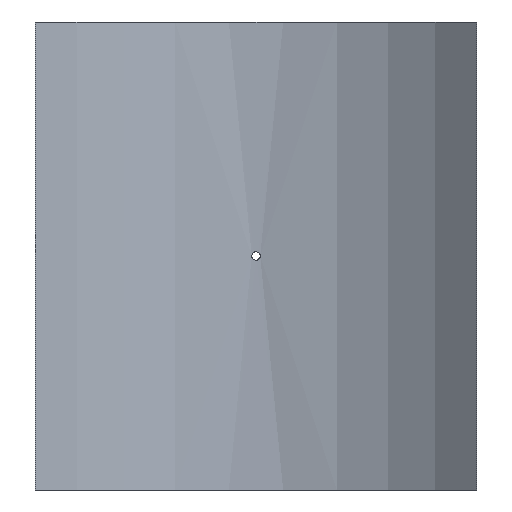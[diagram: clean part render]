
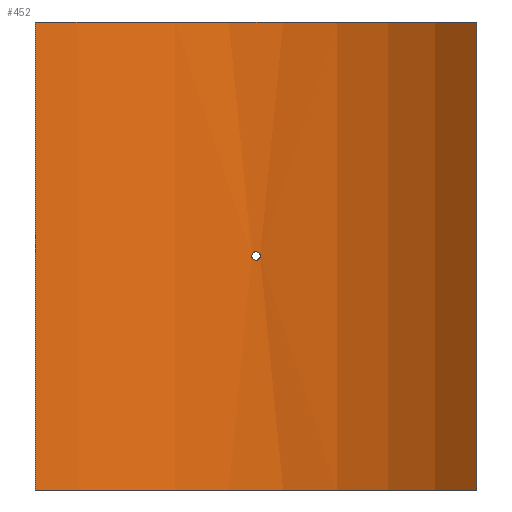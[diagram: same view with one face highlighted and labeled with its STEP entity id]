
A CAD part, front view. The second image highlights one B-rep face of the part: STEP entity #452.
In plain terms, the highlighted cylindrical face has radius 355 mm (diameter 710 mm), a partial arc.
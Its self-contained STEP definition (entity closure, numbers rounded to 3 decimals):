
#19=B_SPLINE_CURVE_WITH_KNOTS('',3,(#788,#789,#790,#791,#792,#793,#794,
#795,#796,#797,#798,#799,#800,#801,#802,#803,#804,#805,#806,#807,#808,#809,
#810,#811,#812,#813,#814,#815,#816,#817,#818,#819,#820,#821),
 .UNSPECIFIED.,.T.,.F.,(4,2,2,2,2,2,2,2,2,2,2,2,2,2,2,2,4),(0.,0.181,
0.362,0.542,0.723,0.904,
1.085,1.266,1.446,1.627,1.808,
1.989,2.17,2.351,2.531,2.712,
2.893),.UNSPECIFIED.);
#43=LINE('',#1073,#62);
#44=LINE('',#1076,#63);
#62=VECTOR('',#661,10.);
#63=VECTOR('',#664,10.);
#76=CYLINDRICAL_SURFACE('',#530,355.);
#88=FACE_BOUND('',#167,.T.);
#127=FACE_OUTER_BOUND('',#166,.T.);
#166=EDGE_LOOP('',(#405,#406,#407,#408));
#167=EDGE_LOOP('',(#409));
#201=CIRCLE('',#529,355.);
#202=CIRCLE('',#531,355.);
#219=VERTEX_POINT('',#786);
#242=VERTEX_POINT('',#1066);
#243=VERTEX_POINT('',#1068);
#244=VERTEX_POINT('',#1072);
#245=VERTEX_POINT('',#1074);
#267=EDGE_CURVE('',#219,#219,#19,.T.);
#299=EDGE_CURVE('',#242,#243,#201,.T.);
#301=EDGE_CURVE('',#244,#242,#43,.T.);
#302=EDGE_CURVE('',#245,#244,#202,.T.);
#303=EDGE_CURVE('',#245,#243,#44,.T.);
#405=ORIENTED_EDGE('',*,*,#301,.F.);
#406=ORIENTED_EDGE('',*,*,#302,.F.);
#407=ORIENTED_EDGE('',*,*,#303,.T.);
#408=ORIENTED_EDGE('',*,*,#299,.F.);
#409=ORIENTED_EDGE('',*,*,#267,.T.);
#452=ADVANCED_FACE('',(#127,#88),#76,.F.);
#529=AXIS2_PLACEMENT_3D('',#1069,#656,#657);
#530=AXIS2_PLACEMENT_3D('',#1071,#659,#660);
#531=AXIS2_PLACEMENT_3D('',#1075,#662,#663);
#656=DIRECTION('center_axis',(0.,0.,1.));
#657=DIRECTION('ref_axis',(0.704,0.71,0.));
#659=DIRECTION('center_axis',(0.,0.,1.));
#660=DIRECTION('ref_axis',(0.704,0.71,0.));
#661=DIRECTION('',(0.,0.,-1.));
#662=DIRECTION('center_axis',(0.,0.,-1.));
#663=DIRECTION('ref_axis',(0.704,0.71,0.));
#664=DIRECTION('',(0.,0.,-1.));
#786=CARTESIAN_POINT('',(4.8,354.968,0.));
#788=CARTESIAN_POINT('Ctrl Pts',(4.8,354.968,0.));
#789=CARTESIAN_POINT('Ctrl Pts',(4.8,354.968,-0.603));
#790=CARTESIAN_POINT('Ctrl Pts',(4.68,354.969,-1.246));
#791=CARTESIAN_POINT('Ctrl Pts',(4.19,354.975,-2.428));
#792=CARTESIAN_POINT('Ctrl Pts',(3.82,354.98,-2.968));
#793=CARTESIAN_POINT('Ctrl Pts',(2.968,354.988,-3.82));
#794=CARTESIAN_POINT('Ctrl Pts',(2.428,354.992,-4.19));
#795=CARTESIAN_POINT('Ctrl Pts',(1.246,354.998,-4.68));
#796=CARTESIAN_POINT('Ctrl Pts',(0.603,355.,-4.8));
#797=CARTESIAN_POINT('Ctrl Pts',(-0.603,355.,-4.8));
#798=CARTESIAN_POINT('Ctrl Pts',(-1.246,354.998,-4.68));
#799=CARTESIAN_POINT('Ctrl Pts',(-2.428,354.992,-4.19));
#800=CARTESIAN_POINT('Ctrl Pts',(-2.968,354.988,-3.82));
#801=CARTESIAN_POINT('Ctrl Pts',(-3.82,354.98,-2.968));
#802=CARTESIAN_POINT('Ctrl Pts',(-4.19,354.975,-2.428));
#803=CARTESIAN_POINT('Ctrl Pts',(-4.68,354.969,-1.246));
#804=CARTESIAN_POINT('Ctrl Pts',(-4.8,354.968,-0.603));
#805=CARTESIAN_POINT('Ctrl Pts',(-4.8,354.968,0.603));
#806=CARTESIAN_POINT('Ctrl Pts',(-4.68,354.969,1.246));
#807=CARTESIAN_POINT('Ctrl Pts',(-4.19,354.975,2.428));
#808=CARTESIAN_POINT('Ctrl Pts',(-3.82,354.98,2.968));
#809=CARTESIAN_POINT('Ctrl Pts',(-2.968,354.988,3.82));
#810=CARTESIAN_POINT('Ctrl Pts',(-2.428,354.992,4.19));
#811=CARTESIAN_POINT('Ctrl Pts',(-1.246,354.998,4.68));
#812=CARTESIAN_POINT('Ctrl Pts',(-0.603,355.,4.8));
#813=CARTESIAN_POINT('Ctrl Pts',(0.603,355.,4.8));
#814=CARTESIAN_POINT('Ctrl Pts',(1.246,354.998,4.68));
#815=CARTESIAN_POINT('Ctrl Pts',(2.428,354.992,4.19));
#816=CARTESIAN_POINT('Ctrl Pts',(2.968,354.988,3.82));
#817=CARTESIAN_POINT('Ctrl Pts',(3.82,354.98,2.968));
#818=CARTESIAN_POINT('Ctrl Pts',(4.19,354.975,2.428));
#819=CARTESIAN_POINT('Ctrl Pts',(4.68,354.969,1.246));
#820=CARTESIAN_POINT('Ctrl Pts',(4.8,354.968,0.603));
#821=CARTESIAN_POINT('Ctrl Pts',(4.8,354.968,0.));
#1066=CARTESIAN_POINT('',(250.,252.042,-265.));
#1068=CARTESIAN_POINT('',(-250.,252.042,-265.));
#1069=CARTESIAN_POINT('Origin',(0.,0.,
-265.));
#1071=CARTESIAN_POINT('Origin',(0.,0.,
0.));
#1072=CARTESIAN_POINT('',(250.,252.042,265.));
#1073=CARTESIAN_POINT('',(250.,252.042,0.));
#1074=CARTESIAN_POINT('',(-250.,252.042,265.));
#1075=CARTESIAN_POINT('Origin',(0.,0.,
265.));
#1076=CARTESIAN_POINT('',(-250.,252.042,0.));
